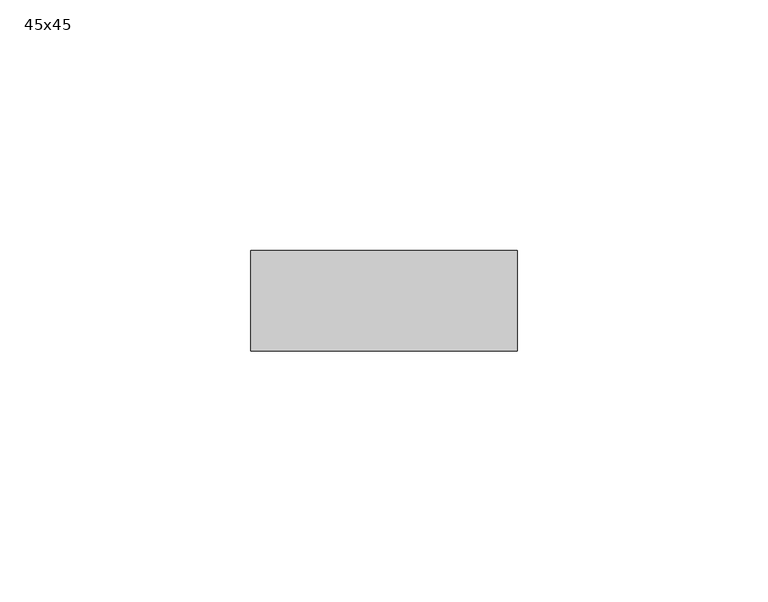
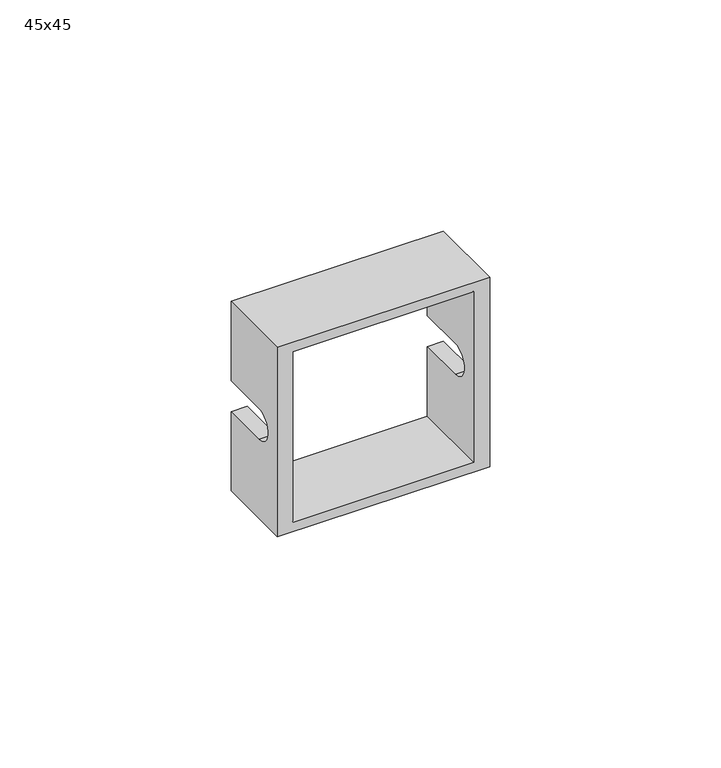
"""IFC4 building model written with IfcOpenShell, lengths in millimetres: proxy geometry, КНС_КаркасНа2МодуляДляМонтажаЭлектроустановочныхИзделий_ILF_DKC : 45x45."""

from ifc_helpers import new_model, si_unit, frame, origin, place, context, project, spatial, polyline, circle_curve, source, transform, mapped, element, save
from ifc_brep_helpers import plane_surface, revolved_surface, advanced_brep


def proxy_45x45_73356a26(model_context):
    return source(origin(), model_context, "Body", "AdvancedBrep", [
        advanced_brep(
        [(22.5, -20.0, 22.5), (22.5, 0.0, 22.5), (22.5, 0.0, 4.1000022), (22.5, -11.9782075, 4.1000022), (22.5, -11.9782075, -4.1000022), (22.5, 0.0, -4.1000022), (22.5, 0.0, -22.5), (22.5, -20.0, -22.5), (-22.5, -20.0, -22.5), (-22.5, 0.0, -22.5), (-22.5, 0.0, -4.1000022), (-22.5, -11.9782075, -4.1000022), (-22.5, -11.9782075, 4.1000022), (-22.5, 0.0, 4.1000022), (-22.5, 0.0, 22.5), (-22.5, -20.0, 22.5), (26.5, 0.0, 25.0), (26.5, -20.0, 25.0), (26.5, -20.0, -25.0), (26.5, 0.0, -25.0), (26.5, 0.0, -4.1000022), (26.5, -11.9782075, -4.1000022), (26.5, -11.9782075, 4.1000022), (26.5, 0.0, 4.1000022), (-26.5, 0.0, 25.0), (-26.5, 0.0, 4.1000022), (-26.5, -11.9782075, 4.1000022), (-26.5, -11.9782075, -4.1000022), (-26.5, 0.0, -4.1000022), (-26.5, 0.0, -25.0), (-26.5, -20.0, -25.0), (-26.5, -20.0, 25.0)],
        [
            (0, 1),
            (1, 2),
            (2, 3),
            (3, 4, circle_curve(frame((22.5, -11.9782075, 0.0), z_axis=(1.0, 0.0, 0.0), x_axis=(0.0, 1.0, 0.0)), 4.1000022)),
            (4, 5),
            (5, 6),
            (6, 7),
            (7, 0),
            (8, 9),
            (9, 10),
            (10, 11),
            (11, 12, circle_curve(frame((-22.5, -11.9782075, 0.0), z_axis=(-1.0, 0.0, 0.0), x_axis=(0.0, 1.0, 0.0)), 4.1000022)),
            (12, 13),
            (13, 14),
            (14, 15),
            (15, 8),
            (0, 15),
            (14, 1),
            (6, 9),
            (8, 7),
            (16, 17),
            (17, 18),
            (18, 19),
            (19, 20),
            (20, 21),
            (21, 22, circle_curve(frame((26.5, -11.9782075, 0.0), z_axis=(-1.0, 0.0, 0.0), x_axis=(0.0, 1.0, 0.0)), 4.1000022)),
            (22, 23),
            (23, 16),
            (24, 25),
            (25, 26),
            (26, 27, circle_curve(frame((-26.5, -11.9782075, 0.0), z_axis=(1.0, 0.0, 0.0), x_axis=(0.0, 1.0, 0.0)), 4.1000022)),
            (27, 28),
            (28, 29),
            (29, 30),
            (30, 31),
            (31, 24),
            (16, 24),
            (31, 17),
            (30, 18),
            (29, 19),
            (28, 10),
            (5, 20),
            (4, 21),
            (27, 11),
            (3, 22),
            (26, 12),
            (2, 23),
            (25, 13),
        ],
        [
            plane_surface(frame((22.5, -20.0, 22.5), z_axis=(-1.0, 0.0, 0.0), x_axis=(0.0, 0.0, -1.0))),
            plane_surface(frame((-22.5, -20.0, 22.5), z_axis=(1.0, 0.0, 0.0), x_axis=(0.0, 0.0, 1.0))),
            plane_surface(frame((22.5, 0.0, 22.5), z_axis=(0.0, 0.0, -1.0), x_axis=(-1.0, 0.0, 0.0))),
            plane_surface(frame((22.5, -20.0, -22.5), z_axis=(0.0, 0.0, 1.0), x_axis=(-1.0, 0.0, 0.0))),
            plane_surface(frame((26.5, 0.0, 25.0), z_axis=(1.0, 0.0, 0.0), x_axis=(0.0, -1.0, 0.0))),
            plane_surface(frame((-26.5, 0.0, 25.0), z_axis=(-1.0, 0.0, 0.0), x_axis=(0.0, 1.0, 0.0))),
            plane_surface(frame((26.5, 0.0, 25.0), z_axis=(0.0, 0.0, 1.0), x_axis=(-1.0, 0.0, 0.0))),
            plane_surface(frame((26.5, -20.0, 25.0), z_axis=(0.0, -1.0, 0.0), x_axis=(-1.0, 0.0, 0.0))),
            plane_surface(frame((26.5, -20.0, -25.0), z_axis=(0.0, 0.0, -1.0), x_axis=(-1.0, 0.0, 0.0))),
            plane_surface(frame((26.5, 0.0, -25.0), z_axis=(0.0, 1.0, 0.0), x_axis=(-1.0, 0.0, 0.0))),
            plane_surface(frame((26.5, 0.0, -4.1000022), z_axis=(0.0, 0.0, 1.0), x_axis=(-1.0, 0.0, 0.0))),
            revolved_surface(polyline([(22.5, -7.8782053, 0.0), (26.5, -7.8782053, 0.0)]), (-26.5, -11.9782075, 0.0), (-1.0, 0.0, 0.0)),
            revolved_surface(polyline([(-26.5, -7.8782053, 0.0), (-22.5, -7.8782053, 0.0)]), (-26.5, -11.9782075, 0.0), (-1.0, 0.0, 0.0)),
            plane_surface(frame((26.5, -11.9782075, 4.1000022), z_axis=(0.0, 0.0, -1.0), x_axis=(-1.0, 0.0, 0.0))),
            plane_surface(frame((26.5, 0.0, 4.1000022), z_axis=(0.0, 1.0, 0.0), x_axis=(-1.0, 0.0, 0.0))),
        ],
        [
            (0, [[1, 2, 3, 4, 5, 6, 7, 8]]),
            (1, [[9, 10, 11, 12, 13, 14, 15, 16]]),
            (2, [[-1, 17, -15, 18]]),
            (3, [[-7, 19, -9, 20]]),
            (4, [[21, 22, 23, 24, 25, 26, 27, 28]]),
            (5, [[29, 30, 31, 32, 33, 34, 35, 36]]),
            (6, [[-21, 37, -36, 38]]),
            (7, [[-22, -38, -35, 39], [-8, -20, -16, -17]]),
            (8, [[-23, -39, -34, 40]]),
            (9, [[-24, -40, -33, 41, -10, -19, -6, 42]]),
            (10, [[-25, -42, -5, 43]]),
            (10, [[-32, 44, -11, -41]]),
            (11, [[-26, -43, -4, 45]]),
            (12, [[-31, 46, -12, -44]]),
            (13, [[-27, -45, -3, 47]]),
            (13, [[-30, 48, -13, -46]]),
            (14, [[-28, -47, -2, -18, -14, -48, -29, -37]]),
        ],
    ),
    ])


if __name__ == "__main__":
    model = new_model("IFC4")
    model_context = context("Model", 3, world=origin())
    ifc_project = project(units=[si_unit("LENGTHUNIT", "METRE", prefix="MILLI")], contexts=[model_context])
    site = spatial("IfcSite", under=ifc_project)
    building = spatial("IfcBuilding", under=site)
    placement = place(None, origin())
    proxy_45x45_shape = proxy_45x45_73356a26(model_context)
    element("IfcBuildingElementProxy", 1, Name="КНС_КаркасНа2МодуляДляМонтажаЭлектроустановочныхИзделий_ILF_DKC : 45x45", ObjectType="КНС_КаркасНа2МодуляДляМонтажаЭлектроустановочныхИзделий_ILF_DKC : 45x45", at=placement, inside=building, context=model_context, shape_type="MappedRepresentation", body=[
        mapped(proxy_45x45_shape, transform((0.0, 0.0, 0.0), x_axis=(1.0, 0.0, 0.0), y_axis=(0.0, 1.0, 0.0), z_axis=(0.0, 0.0, 1.0))),
    ])
    save(model, "model.ifc")
